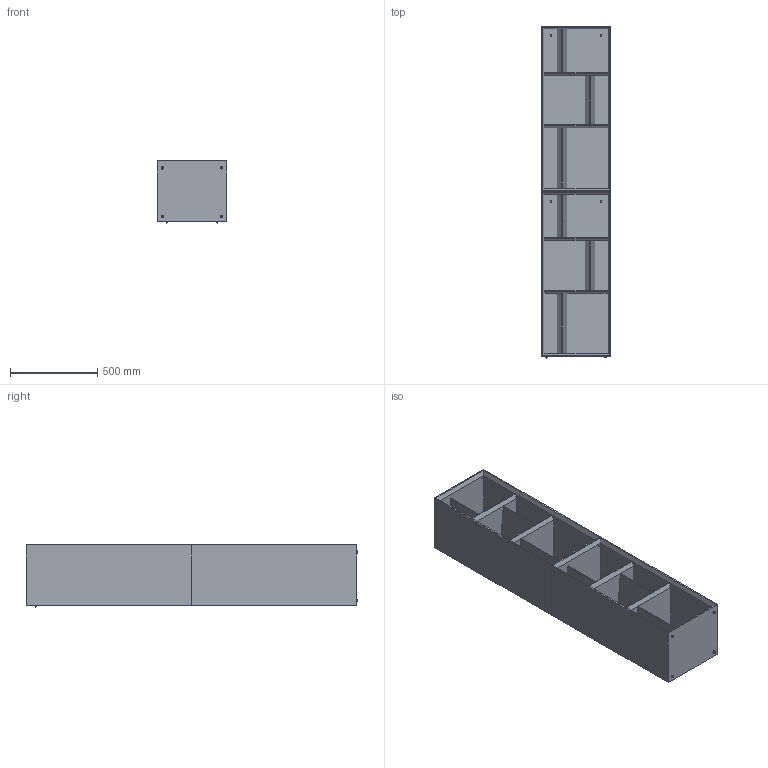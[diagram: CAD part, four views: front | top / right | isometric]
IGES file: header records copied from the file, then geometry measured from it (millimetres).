
Start section: SolidWorks IGES file using analytic representation for surfaces
Global section: file name: Y:\eforma\TECNICO\SOLIDWORKS\E-FORMA\08-LIBRERIE\LIBRERIA BENDY\02 parts\BL21S_Bendy Bx2_40x35x190h.IGS; native system: SolidWorks 2022; preprocessor: SolidWorks 2022; author: eforma.tech; date: 240806.102754; units: millimetre
Bounding box: 400 x 1907 x 358 mm (x, y, z)
Volume: 46528712.1 mm3; surface area: 8436877.2 mm2
Topology: 32 solids, 32 shells, 706 faces, 1940 edges, 1278 vertices
Faces by surface type: plane 332, revolution 318, bspline 56
